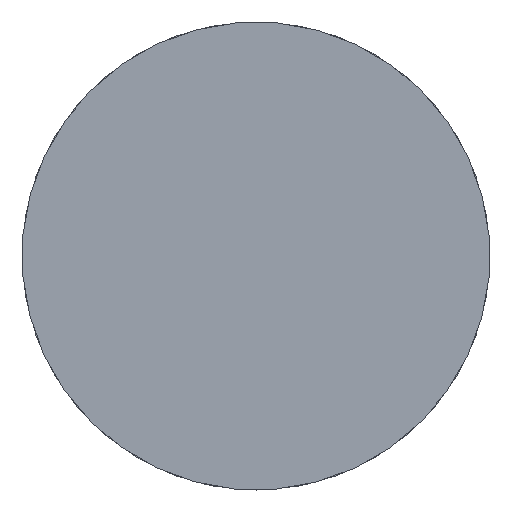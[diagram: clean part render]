
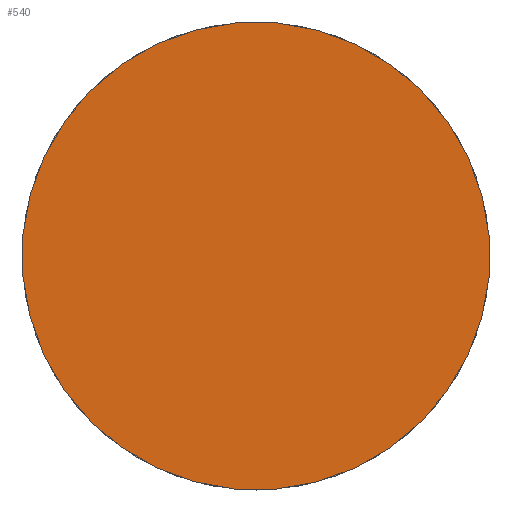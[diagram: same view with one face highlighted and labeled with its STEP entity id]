
A CAD part, left-side view. The second image highlights one B-rep face of the part: STEP entity #540.
In plain terms, the highlighted planar face has unit normal (-1, 0, 0).
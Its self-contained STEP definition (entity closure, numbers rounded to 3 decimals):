
#6 = DIRECTION ( 'NONE',  ( 0., 0., -1. ) ) ;
#29 = PLANE ( 'NONE',  #286 ) ;
#55 = CARTESIAN_POINT ( 'NONE',  ( -50., 0., 0. ) ) ;
#60 = CARTESIAN_POINT ( 'NONE',  ( -50., 0., 0. ) ) ;
#86 = CARTESIAN_POINT ( 'NONE',  ( -50., 3., 0. ) ) ;
#89 = DIRECTION ( 'NONE',  ( -1., 0., 0. ) ) ;
#93 = AXIS2_PLACEMENT_3D ( 'NONE', #60, #268, #470 ) ;
#157 = CARTESIAN_POINT ( 'NONE',  ( -50., 0., -3. ) ) ;
#243 = FACE_OUTER_BOUND ( 'NONE', #585, .T. ) ;
#268 = DIRECTION ( 'NONE',  ( 1., 0., 0. ) ) ;
#286 = AXIS2_PLACEMENT_3D ( 'NONE', #86, #89, #292 ) ;
#292 = DIRECTION ( 'NONE',  ( 0., 0., 1. ) ) ;
#371 = CIRCLE ( 'NONE', #563, 3. ) ;
#404 = EDGE_CURVE ( 'NONE', #505, #434, #371, .T. ) ;
#434 = VERTEX_POINT ( 'NONE', #157 ) ;
#444 = ORIENTED_EDGE ( 'NONE', *, *, #404, .F. ) ;
#447 = EDGE_CURVE ( 'NONE', #434, #505, #516, .T. ) ;
#467 = DIRECTION ( 'NONE',  ( 1., 0., 0. ) ) ;
#470 = DIRECTION ( 'NONE',  ( 0., 0., -1. ) ) ;
#505 = VERTEX_POINT ( 'NONE', #578 ) ;
#516 = CIRCLE ( 'NONE', #93, 3. ) ;
#540 = ADVANCED_FACE ( 'NONE', ( #243 ), #29, .T. ) ;
#563 = AXIS2_PLACEMENT_3D ( 'NONE', #55, #467, #6 ) ;
#578 = CARTESIAN_POINT ( 'NONE',  ( -50., 0., 3. ) ) ;
#585 = EDGE_LOOP ( 'NONE', ( #608, #444 ) ) ;
#608 = ORIENTED_EDGE ( 'NONE', *, *, #447, .F. ) ;
